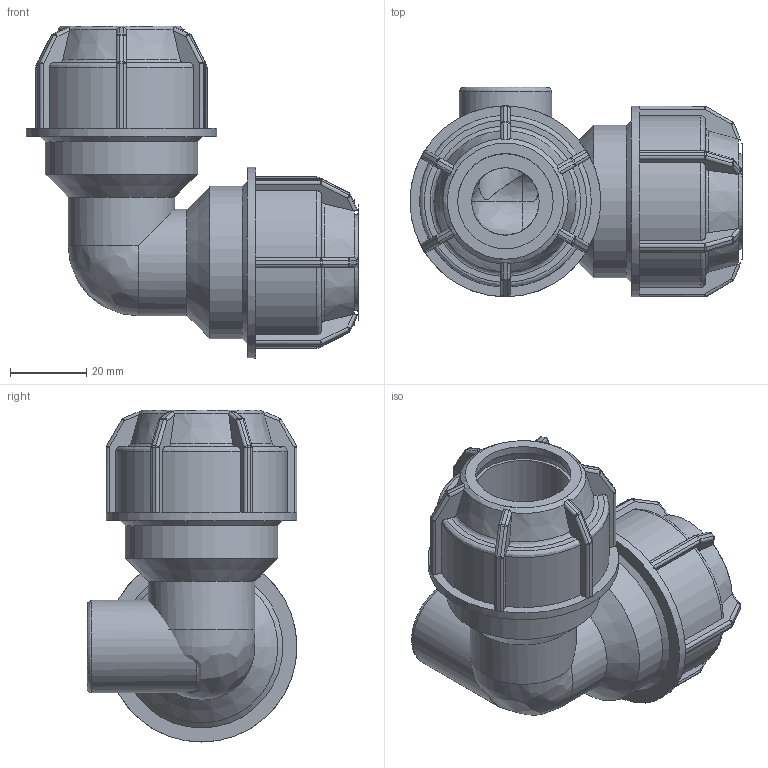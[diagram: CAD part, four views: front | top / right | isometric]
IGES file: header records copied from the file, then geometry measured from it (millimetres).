
Global section: file name: 146500025005.ipt; native system: Autodesk Inventor 2015; preprocessor: unknown; author: KIM; date: 20180409.131223; units: millimetre
Bounding box: 87 x 55 x 87 mm (x, y, z)
Volume: 92892.9 mm3; surface area: 33270.8 mm2
Topology: 2 solids, 2 shells, 421 faces, 1031 edges, 604 vertices
Faces by surface type: plane 196, cylinder 115, sphere 48, revolution 44, cone 16, bspline 2
Full cylindrical faces by diameter (mm): 24.22 x1, 27.947 x2, 40 x2, 50 x2
